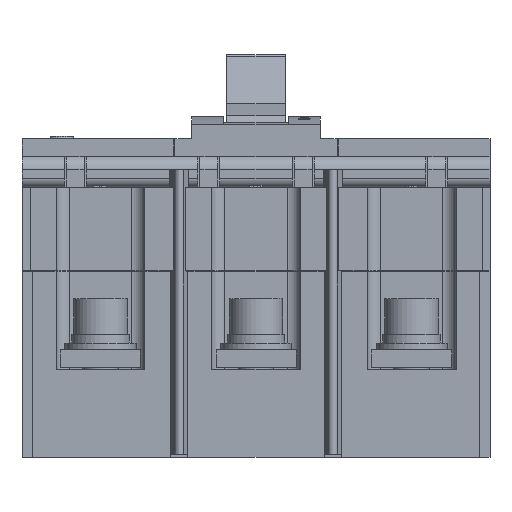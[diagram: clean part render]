
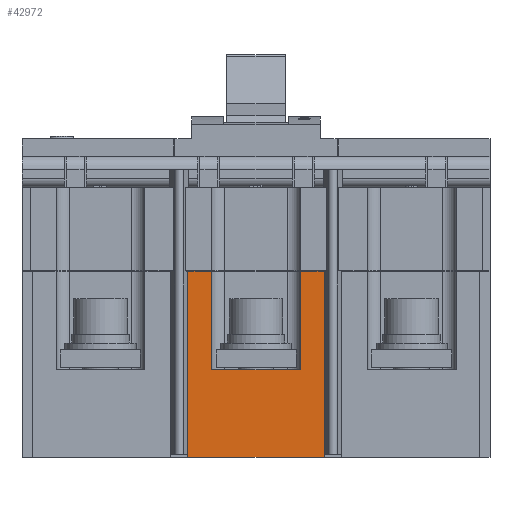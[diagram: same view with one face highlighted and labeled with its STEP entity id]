
A CAD part, front view. The second image highlights one B-rep face of the part: STEP entity #42972.
In plain terms, the highlighted planar face has unit normal (0, -1, 0).
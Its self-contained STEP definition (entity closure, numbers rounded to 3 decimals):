
#5427 = LINE ( 'NONE', #5429, #23495 ) ;
#5429 = CARTESIAN_POINT ( 'NONE',  ( -15.35, -82.5, 6.15 ) ) ;
#5431 = DIRECTION ( 'NONE',  ( 0., 0., -1. ) ) ;
#5433 = LINE ( 'NONE', #5435, #23496 ) ;
#5435 = CARTESIAN_POINT ( 'NONE',  ( 52.65, -82.5, 6.05 ) ) ;
#5437 = DIRECTION ( 'NONE',  ( 1., 0., 0. ) ) ;
#5439 = LINE ( 'NONE', #5441, #23497 ) ;
#5441 = CARTESIAN_POINT ( 'NONE',  ( 52.65, -82.5, -35.85 ) ) ;
#5443 = DIRECTION ( 'NONE',  ( -1., 0., 0. ) ) ;
#5445 = LINE ( 'NONE', #5447, #23498 ) ;
#5447 = CARTESIAN_POINT ( 'NONE',  ( 15.35, -82.5, 6.15 ) ) ;
#5449 = DIRECTION ( 'NONE',  ( 0., 0., -1. ) ) ;
#5451 = LINE ( 'NONE', #5453, #23499 ) ;
#5453 = CARTESIAN_POINT ( 'NONE',  ( 52.65, -82.5, 6.05 ) ) ;
#5455 = DIRECTION ( 'NONE',  ( 1., 0., 0. ) ) ;
#5457 = LINE ( 'NONE', #5459, #23500 ) ;
#5459 = CARTESIAN_POINT ( 'NONE',  ( 10., -82.5, -16.15 ) ) ;
#5461 = DIRECTION ( 'NONE',  ( 0., 0., 1. ) ) ;
#5462 = LINE ( 'NONE', #5463, #23501 ) ;
#5463 = CARTESIAN_POINT ( 'NONE',  ( -10., -82.5, -16.15 ) ) ;
#5464 = DIRECTION ( 'NONE',  ( -1., 0., 0. ) ) ;
#5465 = LINE ( 'NONE', #5466, #23502 ) ;
#5466 = CARTESIAN_POINT ( 'NONE',  ( -10., -82.5, -16.15 ) ) ;
#5467 = DIRECTION ( 'NONE',  ( 0., 0., 1. ) ) ;
#7289 = EDGE_LOOP ( 'NONE', ( #41154, #41156, #41155, #41157, #41158, #41159, #41160, #41161 ) ) ;
#19025 = PLANE ( 'NONE',  #23882 ) ;
#19027 = CARTESIAN_POINT ( 'NONE',  ( 52.65, -82.5, 24.85 ) ) ;
#19029 = DIRECTION ( 'NONE',  ( 0., 1., 0. ) ) ;
#19031 = DIRECTION ( 'NONE',  ( 0., 0., 1. ) ) ;
#23495 = VECTOR ( 'NONE', #5431, 1000. ) ;
#23496 = VECTOR ( 'NONE', #5437, 1000. ) ;
#23497 = VECTOR ( 'NONE', #5443, 1000. ) ;
#23498 = VECTOR ( 'NONE', #5449, 1000. ) ;
#23499 = VECTOR ( 'NONE', #5455, 1000. ) ;
#23500 = VECTOR ( 'NONE', #5461, 1000. ) ;
#23501 = VECTOR ( 'NONE', #5464, 1000. ) ;
#23502 = VECTOR ( 'NONE', #5467, 1000. ) ;
#23879 = FACE_OUTER_BOUND ( 'NONE', #7289, .T. ) ;
#23882 = AXIS2_PLACEMENT_3D ( 'NONE', #19027, #19029, #19031 ) ;
#31675 = CARTESIAN_POINT ( 'NONE',  ( -15.35, -82.5, 6.05 ) ) ;
#31676 = CARTESIAN_POINT ( 'NONE',  ( -10., -82.5, 6.05 ) ) ;
#31677 = CARTESIAN_POINT ( 'NONE',  ( -15.35, -82.5, -35.85 ) ) ;
#31678 = CARTESIAN_POINT ( 'NONE',  ( 15.35, -82.5, -35.85 ) ) ;
#31679 = CARTESIAN_POINT ( 'NONE',  ( 15.35, -82.5, 6.05 ) ) ;
#31680 = CARTESIAN_POINT ( 'NONE',  ( 10., -82.5, 6.05 ) ) ;
#31681 = CARTESIAN_POINT ( 'NONE',  ( 10., -82.5, -16.15 ) ) ;
#31682 = CARTESIAN_POINT ( 'NONE',  ( -10., -82.5, -16.15 ) ) ;
#37286 = EDGE_CURVE ( 'NONE', #44459, #44461, #5427, .T. ) ;
#37287 = EDGE_CURVE ( 'NONE', #44459, #44460, #5433, .T. ) ;
#37288 = EDGE_CURVE ( 'NONE', #44462, #44461, #5439, .T. ) ;
#37289 = EDGE_CURVE ( 'NONE', #44463, #44462, #5445, .T. ) ;
#37290 = EDGE_CURVE ( 'NONE', #44464, #44463, #5451, .T. ) ;
#37291 = EDGE_CURVE ( 'NONE', #44465, #44464, #5457, .T. ) ;
#37292 = EDGE_CURVE ( 'NONE', #44465, #44466, #5462, .T. ) ;
#37293 = EDGE_CURVE ( 'NONE', #44466, #44460, #5465, .T. ) ;
#41154 = ORIENTED_EDGE ( 'NONE', *, *, #37287, .F. ) ;
#41155 = ORIENTED_EDGE ( 'NONE', *, *, #37288, .F. ) ;
#41156 = ORIENTED_EDGE ( 'NONE', *, *, #37286, .T. ) ;
#41157 = ORIENTED_EDGE ( 'NONE', *, *, #37289, .F. ) ;
#41158 = ORIENTED_EDGE ( 'NONE', *, *, #37290, .F. ) ;
#41159 = ORIENTED_EDGE ( 'NONE', *, *, #37291, .F. ) ;
#41160 = ORIENTED_EDGE ( 'NONE', *, *, #37292, .T. ) ;
#41161 = ORIENTED_EDGE ( 'NONE', *, *, #37293, .T. ) ;
#42972 = ADVANCED_FACE ( 'NONE', ( #23879 ), #19025, .F. ) ;
#44459 = VERTEX_POINT ( 'NONE', #31675 ) ;
#44460 = VERTEX_POINT ( 'NONE', #31676 ) ;
#44461 = VERTEX_POINT ( 'NONE', #31677 ) ;
#44462 = VERTEX_POINT ( 'NONE', #31678 ) ;
#44463 = VERTEX_POINT ( 'NONE', #31679 ) ;
#44464 = VERTEX_POINT ( 'NONE', #31680 ) ;
#44465 = VERTEX_POINT ( 'NONE', #31681 ) ;
#44466 = VERTEX_POINT ( 'NONE', #31682 ) ;
